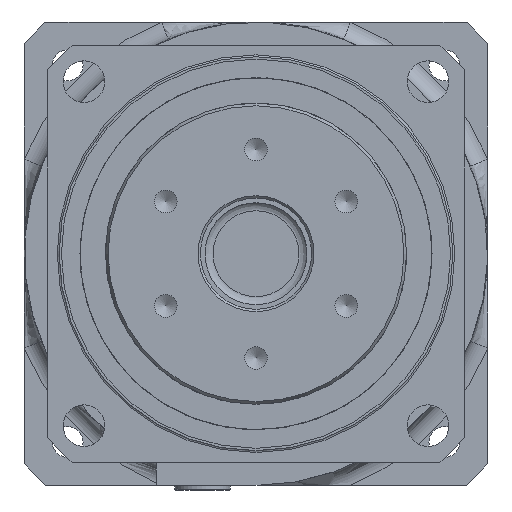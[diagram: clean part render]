
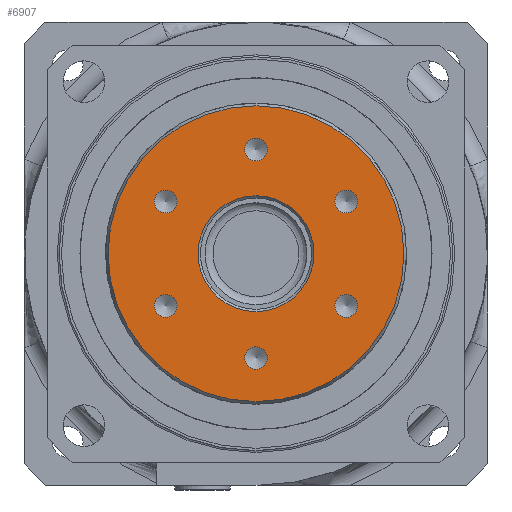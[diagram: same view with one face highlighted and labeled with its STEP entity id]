
A CAD part, left-side view. The second image highlights one B-rep face of the part: STEP entity #6907.
In plain terms, the highlighted planar face has unit normal (-1, 0, 0).
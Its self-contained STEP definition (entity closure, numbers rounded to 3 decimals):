
#647=FACE_BOUND('',#1933,.T.);
#648=FACE_BOUND('',#1934,.T.);
#649=FACE_BOUND('',#1935,.T.);
#650=FACE_BOUND('',#1936,.T.);
#651=FACE_BOUND('',#1937,.T.);
#652=FACE_BOUND('',#1938,.T.);
#653=FACE_BOUND('',#1939,.T.);
#1354=PLANE('',#7848);
#1522=FACE_OUTER_BOUND('',#1932,.T.);
#1932=EDGE_LOOP('',(#5149));
#1933=EDGE_LOOP('',(#5150,#5151));
#1934=EDGE_LOOP('',(#5152,#5153));
#1935=EDGE_LOOP('',(#5154,#5155));
#1936=EDGE_LOOP('',(#5156,#5157));
#1937=EDGE_LOOP('',(#5158,#5159));
#1938=EDGE_LOOP('',(#5160,#5161));
#1939=EDGE_LOOP('',(#5162));
#2473=CIRCLE('',#7812,2.459);
#2474=CIRCLE('',#7813,2.459);
#2477=CIRCLE('',#7818,2.459);
#2478=CIRCLE('',#7819,2.459);
#2481=CIRCLE('',#7824,2.459);
#2482=CIRCLE('',#7825,2.459);
#2485=CIRCLE('',#7830,2.459);
#2486=CIRCLE('',#7831,2.459);
#2489=CIRCLE('',#7836,2.459);
#2490=CIRCLE('',#7837,2.459);
#2493=CIRCLE('',#7842,2.459);
#2494=CIRCLE('',#7843,2.459);
#2495=CIRCLE('',#7845,12.5);
#2498=CIRCLE('',#7849,31.923);
#3153=VERTEX_POINT('',#11575);
#3154=VERTEX_POINT('',#11576);
#3158=VERTEX_POINT('',#11588);
#3159=VERTEX_POINT('',#11589);
#3163=VERTEX_POINT('',#11601);
#3164=VERTEX_POINT('',#11602);
#3168=VERTEX_POINT('',#11614);
#3169=VERTEX_POINT('',#11615);
#3173=VERTEX_POINT('',#11627);
#3174=VERTEX_POINT('',#11628);
#3178=VERTEX_POINT('',#11640);
#3179=VERTEX_POINT('',#11641);
#3180=VERTEX_POINT('',#11646);
#3183=VERTEX_POINT('',#11654);
#3970=EDGE_CURVE('',#3153,#3154,#2473,.T.);
#3971=EDGE_CURVE('',#3154,#3153,#2474,.T.);
#3976=EDGE_CURVE('',#3158,#3159,#2477,.T.);
#3977=EDGE_CURVE('',#3159,#3158,#2478,.T.);
#3982=EDGE_CURVE('',#3163,#3164,#2481,.T.);
#3983=EDGE_CURVE('',#3164,#3163,#2482,.T.);
#3988=EDGE_CURVE('',#3168,#3169,#2485,.T.);
#3989=EDGE_CURVE('',#3169,#3168,#2486,.T.);
#3994=EDGE_CURVE('',#3173,#3174,#2489,.T.);
#3995=EDGE_CURVE('',#3174,#3173,#2490,.T.);
#4000=EDGE_CURVE('',#3178,#3179,#2493,.T.);
#4001=EDGE_CURVE('',#3179,#3178,#2494,.T.);
#4003=EDGE_CURVE('',#3180,#3180,#2495,.T.);
#4007=EDGE_CURVE('',#3183,#3183,#2498,.T.);
#5149=ORIENTED_EDGE('',*,*,#4007,.F.);
#5150=ORIENTED_EDGE('',*,*,#3970,.T.);
#5151=ORIENTED_EDGE('',*,*,#3971,.T.);
#5152=ORIENTED_EDGE('',*,*,#3976,.T.);
#5153=ORIENTED_EDGE('',*,*,#3977,.T.);
#5154=ORIENTED_EDGE('',*,*,#3982,.T.);
#5155=ORIENTED_EDGE('',*,*,#3983,.T.);
#5156=ORIENTED_EDGE('',*,*,#3988,.T.);
#5157=ORIENTED_EDGE('',*,*,#3989,.T.);
#5158=ORIENTED_EDGE('',*,*,#3994,.T.);
#5159=ORIENTED_EDGE('',*,*,#3995,.T.);
#5160=ORIENTED_EDGE('',*,*,#4000,.T.);
#5161=ORIENTED_EDGE('',*,*,#4001,.T.);
#5162=ORIENTED_EDGE('',*,*,#4003,.F.);
#6907=ADVANCED_FACE('',(#1522,#647,#648,#649,#650,#651,#652,#653),#1354,
 .T.);
#7812=AXIS2_PLACEMENT_3D('',#11577,#9101,#9102);
#7813=AXIS2_PLACEMENT_3D('',#11578,#9103,#9104);
#7818=AXIS2_PLACEMENT_3D('',#11590,#9115,#9116);
#7819=AXIS2_PLACEMENT_3D('',#11591,#9117,#9118);
#7824=AXIS2_PLACEMENT_3D('',#11603,#9129,#9130);
#7825=AXIS2_PLACEMENT_3D('',#11604,#9131,#9132);
#7830=AXIS2_PLACEMENT_3D('',#11616,#9143,#9144);
#7831=AXIS2_PLACEMENT_3D('',#11617,#9145,#9146);
#7836=AXIS2_PLACEMENT_3D('',#11629,#9157,#9158);
#7837=AXIS2_PLACEMENT_3D('',#11630,#9159,#9160);
#7842=AXIS2_PLACEMENT_3D('',#11642,#9171,#9172);
#7843=AXIS2_PLACEMENT_3D('',#11643,#9173,#9174);
#7845=AXIS2_PLACEMENT_3D('',#11647,#9178,#9179);
#7848=AXIS2_PLACEMENT_3D('',#11653,#9185,#9186);
#7849=AXIS2_PLACEMENT_3D('',#11655,#9187,#9188);
#9101=DIRECTION('center_axis',(1.,0.,0.));
#9102=DIRECTION('ref_axis',(0.,0.866,0.5));
#9103=DIRECTION('center_axis',(1.,0.,0.));
#9104=DIRECTION('ref_axis',(0.,0.866,0.5));
#9115=DIRECTION('center_axis',(1.,0.,0.));
#9116=DIRECTION('ref_axis',(0.,0.866,-0.5));
#9117=DIRECTION('center_axis',(1.,0.,0.));
#9118=DIRECTION('ref_axis',(0.,0.866,-0.5));
#9129=DIRECTION('center_axis',(1.,0.,0.));
#9130=DIRECTION('ref_axis',(0.,0.,-1.));
#9131=DIRECTION('center_axis',(1.,0.,0.));
#9132=DIRECTION('ref_axis',(0.,0.,-1.));
#9143=DIRECTION('center_axis',(1.,0.,0.));
#9144=DIRECTION('ref_axis',(0.,-0.866,-0.5));
#9145=DIRECTION('center_axis',(1.,0.,0.));
#9146=DIRECTION('ref_axis',(0.,-0.866,-0.5));
#9157=DIRECTION('center_axis',(1.,0.,0.));
#9158=DIRECTION('ref_axis',(0.,-0.866,0.5));
#9159=DIRECTION('center_axis',(1.,0.,0.));
#9160=DIRECTION('ref_axis',(0.,-0.866,0.5));
#9171=DIRECTION('center_axis',(1.,0.,0.));
#9172=DIRECTION('ref_axis',(0.,0.,1.));
#9173=DIRECTION('center_axis',(1.,0.,0.));
#9174=DIRECTION('ref_axis',(0.,0.,1.));
#9178=DIRECTION('center_axis',(-1.,0.,0.));
#9179=DIRECTION('ref_axis',(0.,-1.,0.));
#9185=DIRECTION('center_axis',(-1.,0.,0.));
#9186=DIRECTION('ref_axis',(0.,0.,1.));
#9187=DIRECTION('center_axis',(1.,0.,0.));
#9188=DIRECTION('ref_axis',(0.,-1.,0.));
#11575=CARTESIAN_POINT('',(0.,21.615,12.479));
#11576=CARTESIAN_POINT('',(0.,17.356,10.021));
#11577=CARTESIAN_POINT('Origin',(0.,19.486,11.25));
#11578=CARTESIAN_POINT('Origin',(0.,19.486,11.25));
#11588=CARTESIAN_POINT('',(0.,21.615,-12.479));
#11589=CARTESIAN_POINT('',(0.,17.356,-10.021));
#11590=CARTESIAN_POINT('Origin',(0.,19.486,-11.25));
#11591=CARTESIAN_POINT('Origin',(0.,19.486,-11.25));
#11601=CARTESIAN_POINT('',(0.,0.,
-24.959));
#11602=CARTESIAN_POINT('',(0.,0.,-20.042));
#11603=CARTESIAN_POINT('Origin',(0.,0.,-22.5));
#11604=CARTESIAN_POINT('Origin',(0.,0.,-22.5));
#11614=CARTESIAN_POINT('',(0.,-21.615,-12.479));
#11615=CARTESIAN_POINT('',(0.,-17.356,-10.021));
#11616=CARTESIAN_POINT('Origin',(0.,-19.486,-11.25));
#11617=CARTESIAN_POINT('Origin',(0.,-19.486,-11.25));
#11627=CARTESIAN_POINT('',(0.,-21.615,12.479));
#11628=CARTESIAN_POINT('',(0.,-17.356,10.021));
#11629=CARTESIAN_POINT('Origin',(0.,-19.486,11.25));
#11630=CARTESIAN_POINT('Origin',(0.,-19.486,11.25));
#11640=CARTESIAN_POINT('',(0.,0.,24.959));
#11641=CARTESIAN_POINT('',(0.,0.,20.042));
#11642=CARTESIAN_POINT('Origin',(0.,0.,22.5));
#11643=CARTESIAN_POINT('Origin',(0.,0.,22.5));
#11646=CARTESIAN_POINT('',(0.,12.5,0.));
#11647=CARTESIAN_POINT('Origin',(0.,0.,0.));
#11653=CARTESIAN_POINT('Origin',(0.,32.5,0.));
#11654=CARTESIAN_POINT('',(0.,31.923,0.));
#11655=CARTESIAN_POINT('Origin',(0.,0.,0.));
